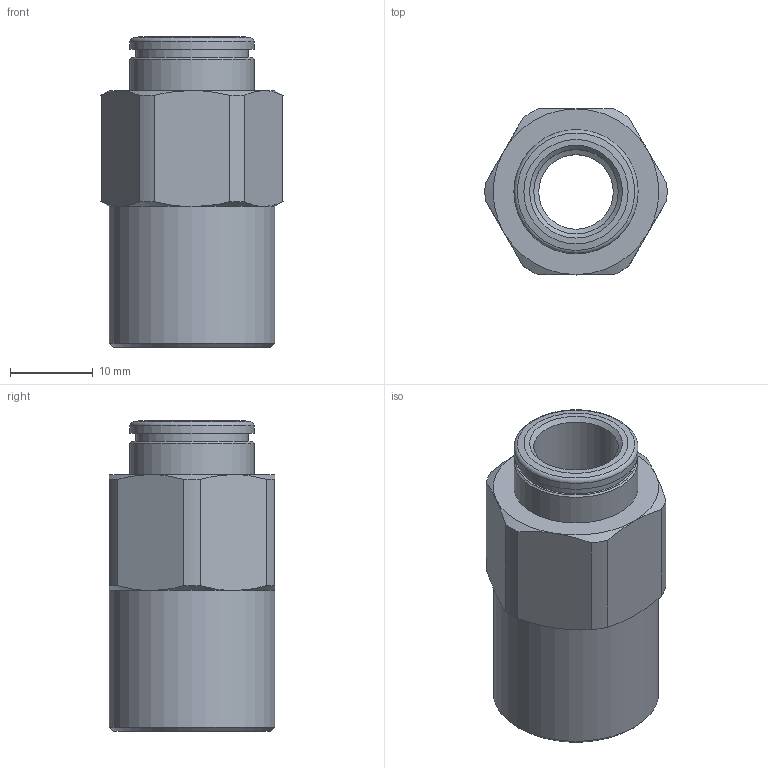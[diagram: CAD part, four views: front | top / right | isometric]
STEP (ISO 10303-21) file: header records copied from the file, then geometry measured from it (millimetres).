
FILE_DESCRIPTION(/* description */ (''),/* implementation_level */ '2;1');
FILE_NAME(/* name */ 'V200210_IPSO02_10_G38',/* time_stamp */ '2016-09-01T09:22:39+02:00',/* author */ (''),/* organization */ (''),/* preprocessor_version */ 'ST-DEVELOPER v16.5',/* originating_system */ 'HiCAD 2016 2101.0 Build 254',/* authorisation */ '');
FILE_SCHEMA (('AUTOMOTIVE_DESIGN { 1 0 10303 214 1 1 1 1 }'));
Length unit declared in the file: millimetre
Products named in the file (3): Root; DR10-N; R200210-i1
Assembly tree (2 placements, depth 2):
  Root
    DR10-N
    R200210-i1
Bounding box: 21.99 x 20 x 37.5 mm (x, y, z)
Volume: 6507.8 mm3; surface area: 4936.3 mm2
Topology: 2 solids, 2 shells, 55 faces, 118 edges, 71 vertices
Faces by surface type: cone 23, cylinder 17, plane 14, torus 1
Full cylindrical faces by diameter (mm): 9 x1, 10.2 x2, 12.3 x1, 13 x1, 13.6 x1, 13.7 x1, 14.95 x1, 15 x2, 20 x1
Entity records: 2313 total; most frequent: DIRECTION 286, CARTESIAN_POINT 215, PRESENTATION_STYLE_ASSIGNMENT 182, COLOUR_RGB 181, DRAUGHTING_PRE_DEFINED_CURVE_FONT 180, CURVE_STYLE 180, OVER_RIDING_STYLED_ITEM 180, ORIENTED_EDGE 180
